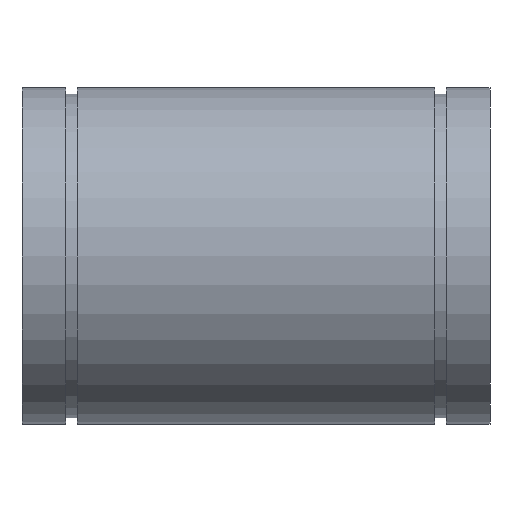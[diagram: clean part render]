
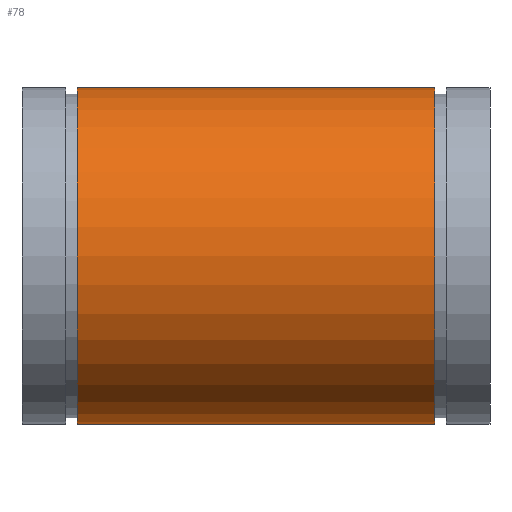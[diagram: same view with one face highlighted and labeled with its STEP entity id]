
A CAD part, front view. The second image highlights one B-rep face of the part: STEP entity #78.
In plain terms, the highlighted cylindrical face has radius 45 mm (diameter 90 mm), a full revolution.
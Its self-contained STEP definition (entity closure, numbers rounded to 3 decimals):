
#78 = ADVANCED_FACE( '', ( #97, #98 ), #99, .T. );
#97 = FACE_OUTER_BOUND( '', #133, .T. );
#98 = FACE_OUTER_BOUND( '', #134, .T. );
#99 = CYLINDRICAL_SURFACE( '', #135, 45. );
#133 = EDGE_LOOP( '', ( #175 ) );
#134 = EDGE_LOOP( '', ( #176 ) );
#135 = AXIS2_PLACEMENT_3D( '', #177, #178, #179 );
#175 = ORIENTED_EDGE( '', *, *, #224, .T. );
#176 = ORIENTED_EDGE( '', *, *, #223, .F. );
#177 = CARTESIAN_POINT( '', ( 125., 0., 0. ) );
#178 = DIRECTION( '', ( -1., 0., 0. ) );
#179 = DIRECTION( '', ( 0., 0., -1. ) );
#223 = EDGE_CURVE( '', #238, #238, #239, .T. );
#224 = EDGE_CURVE( '', #240, #240, #241, .T. );
#238 = VERTEX_POINT( '', #262 );
#239 = CIRCLE( '', #263, 45. );
#240 = VERTEX_POINT( '', #264 );
#241 = CIRCLE( '', #265, 45. );
#262 = CARTESIAN_POINT( '', ( 110.2, 0., -45. ) );
#263 = AXIS2_PLACEMENT_3D( '', #289, #290, #291 );
#264 = CARTESIAN_POINT( '', ( 14.8, 0., -45. ) );
#265 = AXIS2_PLACEMENT_3D( '', #292, #293, #294 );
#289 = CARTESIAN_POINT( '', ( 110.2, 0., 0. ) );
#290 = DIRECTION( '', ( 1., 0., 0. ) );
#291 = DIRECTION( '', ( 0., 0., -1. ) );
#292 = CARTESIAN_POINT( '', ( 14.8, 0., 0. ) );
#293 = DIRECTION( '', ( 1., 0., 0. ) );
#294 = DIRECTION( '', ( 0., 0., -1. ) );
